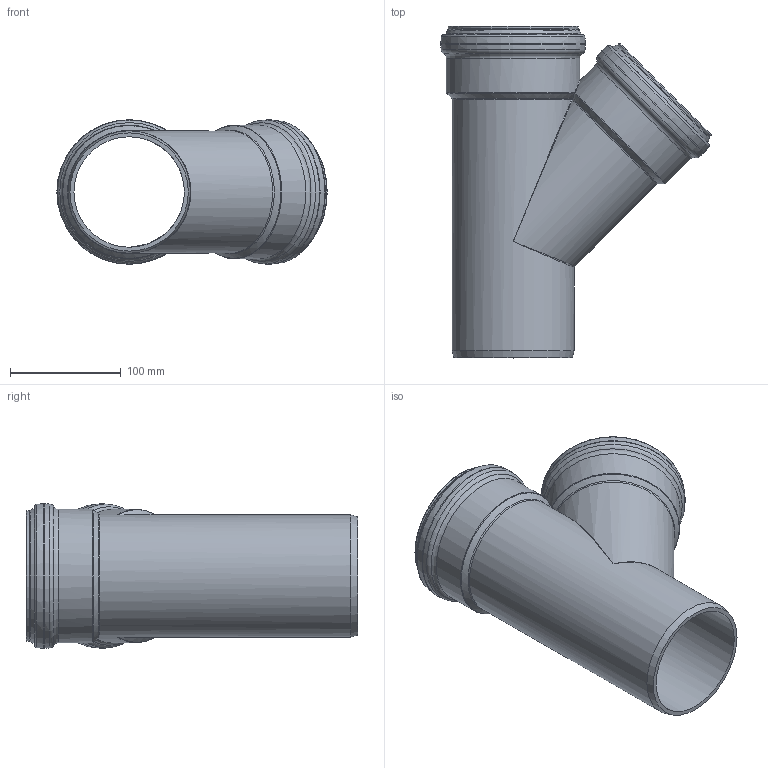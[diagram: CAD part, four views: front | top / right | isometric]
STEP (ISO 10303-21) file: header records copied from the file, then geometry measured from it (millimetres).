
FILE_DESCRIPTION(/* description */ (''),/* implementation_level */ '2;1');
FILE_NAME(/* name */ '335200z.stp',/* time_stamp */ '2026-02-16T08:40:37+01:00',/* author */ ('corinna'),/* organization */ (''),/* preprocessor_version */ 'ST-DEVELOPER v20',/* originating_system */ 'Autodesk Inventor 2024',/* authorisation */ '');
FILE_SCHEMA (('AUTOMOTIVE_DESIGN { 1 0 10303 214 3 1 1 }'));
Length unit declared in the file: millimetre
Products named in the file (1): 335200z
Bounding box: 243.96 x 299.5 x 130.5 mm (x, y, z)
Volume: 693833.6 mm3; surface area: 288261.9 mm2
Topology: 1 solids, 1 shells, 88 faces, 267 edges, 178 vertices
Faces by surface type: torus 36, cylinder 18, cone 15, bspline 14, plane 5
Full cylindrical faces by diameter (mm): 99.7 x2, 110.3 x1, 110.9 x2, 111.2 x4, 117.4 x2, 120.5 x2, 123.6 x2, 130.5 x2
Entity records: 3881 total; most frequent: CARTESIAN_POINT 1299, DIRECTION 621, ORIENTED_EDGE 526, AXIS2_PLACEMENT_3D 295, EDGE_CURVE 263, CIRCLE 206, VERTEX_POINT 178, EDGE_LOOP 93
